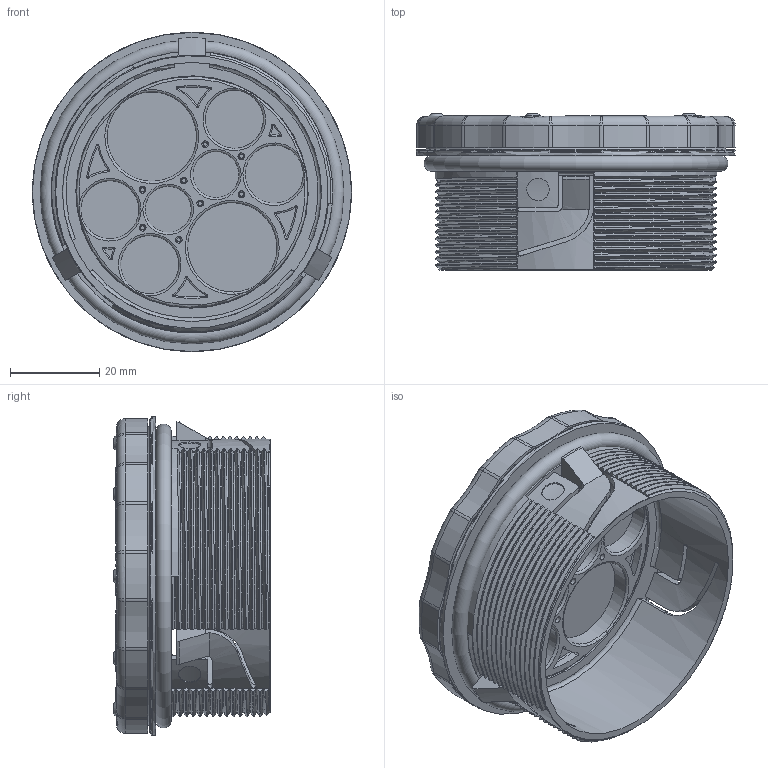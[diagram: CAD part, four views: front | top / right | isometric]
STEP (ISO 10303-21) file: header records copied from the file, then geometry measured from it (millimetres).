
FILE_DESCRIPTION(/* description */ (''),/* implementation_level */ '2;1');
FILE_NAME(/* name */ 'C:\SapWorkDir\Inventor\MP1\ConvertTempPath\87_16_121508_00_A_220622_KDP-R M63-08 ZSB.stp',/* time_stamp */ '2022-06-23T07:24:34+02:00',/* author */ ('BAUER'),/* organization */ ('87.16.43.0'),/* preprocessor_version */ 'ST-DEVELOPER v16.13',/* originating_system */ 'Autodesk Inventor 2018',/* authorisation */ '');
FILE_SCHEMA (('AUTOMOTIVE_DESIGN { 1 0 10303 214 3 1 1 }'));
Products named in the file (7): 121508; Gehäuse; 87.16.43.2; 87.16.43.3; 87.16.43.4; 121500; 87.16.43.6
Assembly tree (6 placements, depth 2):
  121508
    Gehäuse
    87.16.43.2
    87.16.43.3
    87.16.43.4
    121500
    87.16.43.6
Bounding box: 71.4 x 35 x 71.4 mm (x, y, z)
Volume: 41878.7 mm3; surface area: 47402.9 mm2
Topology: 6 solids, 6 shells, 1943 faces, 5115 edges, 3251 vertices
Faces by surface type: plane 623, bspline 496, cylinder 457, torus 230, sphere 107, cone 30
Full cylindrical faces by diameter (mm): 1.5 x8, 3.8 x11, 5 x9, 5.8 x3, 6.2 x5, 7.75 x3, 9.5 x2, 10.3 x2, 11.304 x2, 11.6 x2, 12.2 x4, 13 x4, 14.004 x4, 18.9 x2, 20 x2, 21.254 x2, 54.9 x1, 55.7 x2, 58 x1, 59 x2, 59.2 x1, 61.7 x1, 63 x1, 66.4 x1, 67.4 x1, 71.4 x1
Entity records: 68593 total; most frequent: CARTESIAN_POINT 23749, ORIENTED_EDGE 9762, DIRECTION 8269, EDGE_CURVE 4881, VERTEX_POINT 3203, AXIS2_PLACEMENT_3D 3091, EDGE_LOOP 2258, LINE 2087
